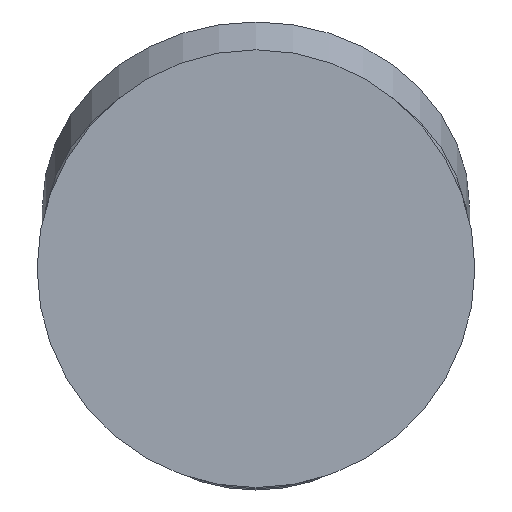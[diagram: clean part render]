
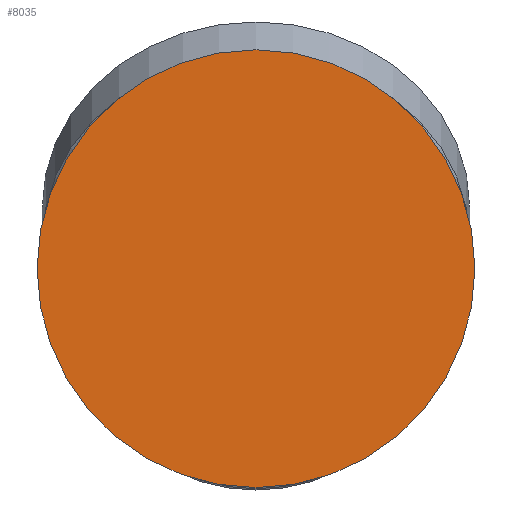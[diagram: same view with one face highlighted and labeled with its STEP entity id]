
A CAD part, front view. The second image highlights one B-rep face of the part: STEP entity #8035.
In plain terms, the highlighted planar face has unit normal (0, -1, 0).
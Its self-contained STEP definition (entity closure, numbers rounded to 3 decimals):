
#177=CIRCLE('',#8471,37.5);
#523=PLANE('',#8480);
#767=FACE_OUTER_BOUND('',#1208,.T.);
#1208=EDGE_LOOP('',(#6300));
#3356=VERTEX_POINT('',#12430);
#4416=EDGE_CURVE('',#3356,#3356,#177,.T.);
#6300=ORIENTED_EDGE('',*,*,#4416,.F.);
#8035=ADVANCED_FACE('',(#767),#523,.F.);
#8471=AXIS2_PLACEMENT_3D('',#12432,#9425,#9426);
#8480=AXIS2_PLACEMENT_3D('',#12684,#9445,#9446);
#9425=DIRECTION('center_axis',(0.,1.,0.));
#9426=DIRECTION('ref_axis',(-1.,0.,0.));
#9445=DIRECTION('center_axis',(0.,1.,0.));
#9446=DIRECTION('ref_axis',(0.,0.,1.));
#12430=CARTESIAN_POINT('',(37.5,0.,0.));
#12432=CARTESIAN_POINT('Origin',(0.,0.,0.));
#12684=CARTESIAN_POINT('Origin',(0.,0.,0.));
